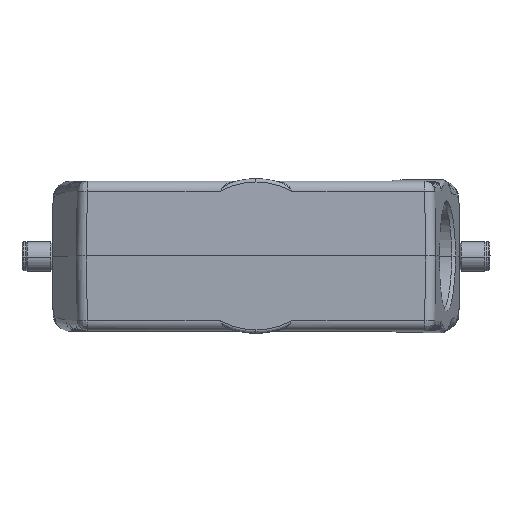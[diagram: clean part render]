
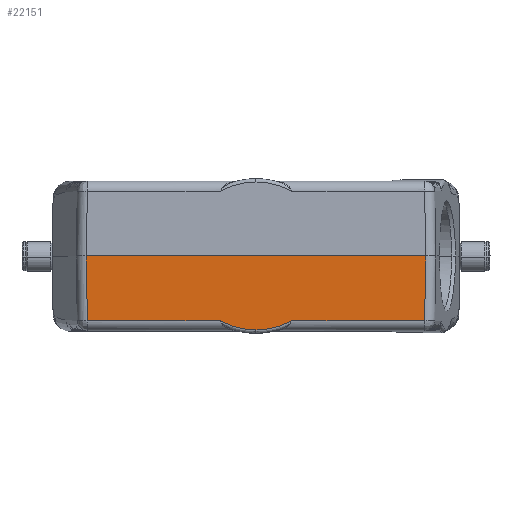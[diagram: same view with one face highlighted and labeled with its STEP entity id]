
A CAD part, top view. The second image highlights one B-rep face of the part: STEP entity #22151.
In plain terms, the highlighted planar face has unit normal (0, -0.018, 1) as drawn and (0, 1, 0.017) by its records, which use the part's own axes.
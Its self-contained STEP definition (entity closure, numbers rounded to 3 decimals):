
#55 = LINE ( 'NONE', #22126, #3971 ) ;
#171 = CARTESIAN_POINT ( 'NONE',  ( 1.837, 75.62, 21.767 ) ) ;
#417 = DIRECTION ( 'NONE',  ( 0.015, -0.017, 1. ) ) ;
#1466 = VERTEX_POINT ( 'NONE', #15054 ) ;
#2224 = ORIENTED_EDGE ( 'NONE', *, *, #17734, .T. ) ;
#2733 = CARTESIAN_POINT ( 'NONE',  ( 8.911, 75.652, 19.944 ) ) ;
#3971 = VECTOR ( 'NONE', #417, 1000. ) ;
#4284 = VECTOR ( 'NONE', #7508, 1000. ) ;
#4908 = CARTESIAN_POINT ( 'NONE',  ( 52.5, 75.667, 19.052 ) ) ;
#6095 = VECTOR ( 'NONE', #27057, 1000. ) ;
#6349 = VERTEX_POINT ( 'NONE', #24030 ) ;
#6694 = ORIENTED_EDGE ( 'NONE', *, *, #11358, .T. ) ;
#7508 = DIRECTION ( 'NONE',  ( 1., 0., 0. ) ) ;
#7841 = PLANE ( 'NONE',  #10943 ) ;
#7926 = CARTESIAN_POINT ( 'NONE',  ( 10.523, 75.667, 19.052 ) ) ;
#8223 = EDGE_LOOP ( 'NONE', ( #6694, #13719, #20041, #26103, #2224, #8623, #29458 ) ) ;
#8623 = ORIENTED_EDGE ( 'NONE', *, *, #14477, .T. ) ;
#9236 = CARTESIAN_POINT ( 'NONE',  ( 49.622, 75.667, 19.052 ) ) ;
#10943 = AXIS2_PLACEMENT_3D ( 'NONE', #28254, #28572, #19429 ) ;
#10956 = VECTOR ( 'NONE', #13699, 1000. ) ;
#10957 = CARTESIAN_POINT ( 'NONE',  ( 52.5, 75.667, 19.052 ) ) ;
#11358 = EDGE_CURVE ( 'NONE', #16838, #1466, #12289, .T. ) ;
#11421 = CARTESIAN_POINT ( 'NONE',  ( -0.007, 75.62, 21.767 ) ) ;
#11664 = CARTESIAN_POINT ( 'NONE',  ( 7.213, 75.64, 20.619 ) ) ;
#12289 = LINE ( 'NONE', #16968, #20594 ) ;
#13699 = DIRECTION ( 'NONE',  ( 0.015, 0.017, -1. ) ) ;
#13719 = ORIENTED_EDGE ( 'NONE', *, *, #27021, .T. ) ;
#14338 = LINE ( 'NONE', #4908, #4284 ) ;
#14427 = VERTEX_POINT ( 'NONE', #22234 ) ;
#14477 = EDGE_CURVE ( 'NONE', #22519, #14427, #19797, .T. ) ;
#14963 = CARTESIAN_POINT ( 'NONE',  ( -10.523, 75.667, 19.052 ) ) ;
#15054 = CARTESIAN_POINT ( 'NONE',  ( -49.909, 76., 0. ) ) ;
#15630 = VERTEX_POINT ( 'NONE', #19711 ) ;
#16750 = B_SPLINE_CURVE_WITH_KNOTS ( 'NONE', 3,
 ( #22584, #171, #23442, #11664, #2733, #27566 ),
 .UNSPECIFIED., .F., .F.,
 ( 4, 2, 4 ),
 ( 0., 0.5, 1. ),
 .UNSPECIFIED. ) ;
#16838 = VERTEX_POINT ( 'NONE', #28326 ) ;
#16968 = CARTESIAN_POINT ( 'NONE',  ( 52.5, 76., 0. ) ) ;
#17449 = FACE_OUTER_BOUND ( 'NONE', #8223, .T. ) ;
#17734 = EDGE_CURVE ( 'NONE', #15630, #22519, #16750, .T. ) ;
#18275 = CARTESIAN_POINT ( 'NONE',  ( -3.659, 75.624, 21.536 ) ) ;
#19429 = DIRECTION ( 'NONE',  ( 0., -0.017, 1. ) ) ;
#19711 = CARTESIAN_POINT ( 'NONE',  ( -0.007, 75.62, 21.767 ) ) ;
#19767 = EDGE_CURVE ( 'NONE', #20334, #15630, #29667, .T. ) ;
#19797 = LINE ( 'NONE', #10957, #6095 ) ;
#20041 = ORIENTED_EDGE ( 'NONE', *, *, #29017, .T. ) ;
#20334 = VERTEX_POINT ( 'NONE', #14963 ) ;
#20413 = CARTESIAN_POINT ( 'NONE',  ( -8.913, 75.652, 19.942 ) ) ;
#20594 = VECTOR ( 'NONE', #26227, 1000. ) ;
#22126 = CARTESIAN_POINT ( 'NONE',  ( -49.909, 76., 0. ) ) ;
#22151 = ADVANCED_FACE ( 'NONE', ( #17449 ), #7841, .T. ) ;
#22234 = CARTESIAN_POINT ( 'NONE',  ( 49.622, 75.667, 19.053 ) ) ;
#22374 = EDGE_CURVE ( 'NONE', #14427, #16838, #27852, .T. ) ;
#22519 = VERTEX_POINT ( 'NONE', #7926 ) ;
#22584 = CARTESIAN_POINT ( 'NONE',  ( -0.007, 75.62, 21.767 ) ) ;
#23442 = CARTESIAN_POINT ( 'NONE',  ( 3.649, 75.624, 21.538 ) ) ;
#24030 = CARTESIAN_POINT ( 'NONE',  ( -49.622, 75.667, 19.052 ) ) ;
#25126 = CARTESIAN_POINT ( 'NONE',  ( -7.217, 75.64, 20.617 ) ) ;
#25226 = CARTESIAN_POINT ( 'NONE',  ( -1.849, 75.62, 21.766 ) ) ;
#26103 = ORIENTED_EDGE ( 'NONE', *, *, #19767, .T. ) ;
#26227 = DIRECTION ( 'NONE',  ( -1., 0., 0. ) ) ;
#27021 = EDGE_CURVE ( 'NONE', #1466, #6349, #55, .T. ) ;
#27057 = DIRECTION ( 'NONE',  ( 1., 0., 0. ) ) ;
#27332 = CARTESIAN_POINT ( 'NONE',  ( -10.523, 75.667, 19.052 ) ) ;
#27566 = CARTESIAN_POINT ( 'NONE',  ( 10.523, 75.667, 19.052 ) ) ;
#27852 = LINE ( 'NONE', #9236, #10956 ) ;
#28254 = CARTESIAN_POINT ( 'NONE',  ( 52.5, 76., 0. ) ) ;
#28326 = CARTESIAN_POINT ( 'NONE',  ( 49.909, 76., 0. ) ) ;
#28572 = DIRECTION ( 'NONE',  ( 0., 1., 0.017 ) ) ;
#29017 = EDGE_CURVE ( 'NONE', #6349, #20334, #14338, .T. ) ;
#29458 = ORIENTED_EDGE ( 'NONE', *, *, #22374, .T. ) ;
#29667 = B_SPLINE_CURVE_WITH_KNOTS ( 'NONE', 3,
 ( #27332, #20413, #25126, #18275, #25226, #11421 ),
 .UNSPECIFIED., .F., .F.,
 ( 4, 2, 4 ),
 ( 0., 0.5, 1. ),
 .UNSPECIFIED. ) ;
